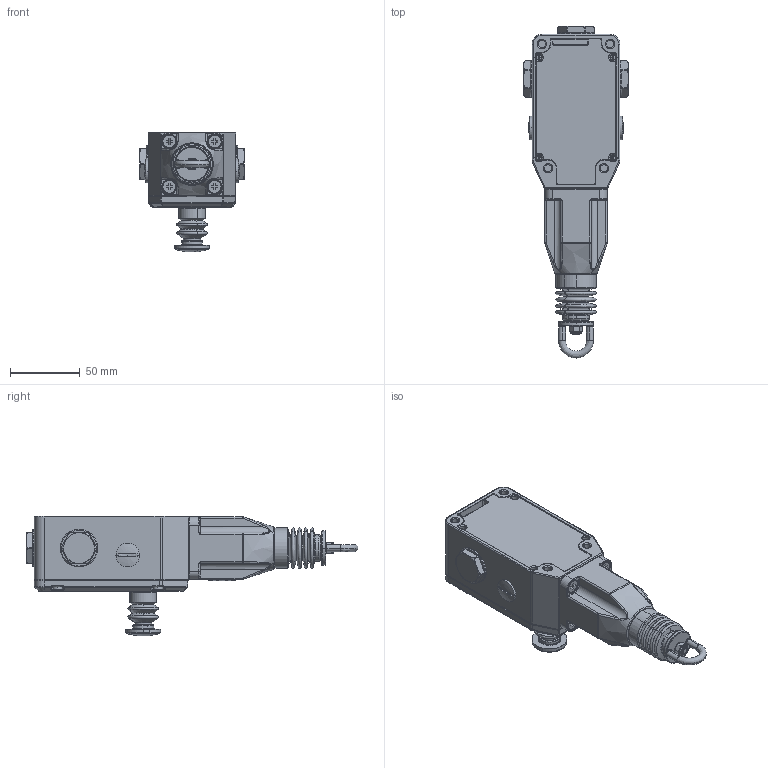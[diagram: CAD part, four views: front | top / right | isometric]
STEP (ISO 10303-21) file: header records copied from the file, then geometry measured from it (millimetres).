
FILE_DESCRIPTION (( 'STEP AP214' ), '1' );
FILE_NAME ('CEC-ML...AE26.STEP', '2015-10-27T15:55:43', ( '' ), ( '' ), 'SwSTEP 2.0', 'SolidWorks 2015', '' );
FILE_SCHEMA (( 'AUTOMOTIVE_DESIGN' ));
Length unit declared in the file: millimetre
Products named in the file (1): CEC-ML...AE26
Bounding box: 75 x 238 x 86 mm (x, y, z)
Surface area: 58368 mm2 (no closed solid volume)
Topology: 0 solids, 863 shells, 914 faces, 4167 edges, 4090 vertices
Faces by surface type: cylinder 335, bspline 328, plane 172, cone 79
Entity records: 75836 total; most frequent: CARTESIAN_POINT 42883, DIRECTION 4647, ORIENTED_EDGE 4192, EDGE_CURVE 4141, VERTEX_POINT 4090, AXIS2_PLACEMENT_3D 1630, LINE 1387, VECTOR 1387
